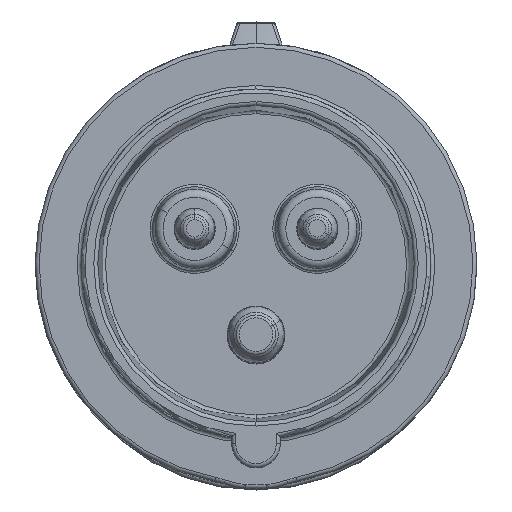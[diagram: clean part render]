
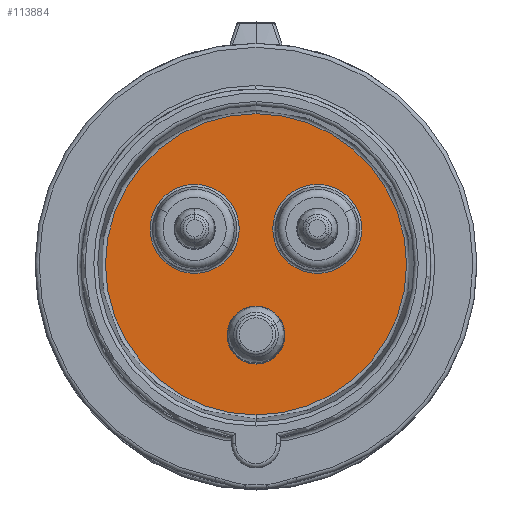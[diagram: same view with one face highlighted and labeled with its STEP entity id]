
A CAD part, top view. The second image highlights one B-rep face of the part: STEP entity #113884.
In plain terms, the highlighted planar face has unit normal (0, 0, 1).
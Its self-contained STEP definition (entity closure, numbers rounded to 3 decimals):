
#28959=CARTESIAN_POINT('',(0.,0.,-36.5));
#28960=DIRECTION('',(0.,0.,-1.));
#28961=DIRECTION('',(0.,1.,0.));
#28962=AXIS2_PLACEMENT_3D('',#28959,#28960,#28961);
#28964=CARTESIAN_POINT('',(0.,0.,-36.5));
#28965=DIRECTION('',(0.,0.,-1.));
#28966=DIRECTION('',(0.,-1.,0.));
#28967=AXIS2_PLACEMENT_3D('',#28964,#28965,#28966);
#28969=CARTESIAN_POINT('',(0.,-8.75,-36.5));
#28970=DIRECTION('',(0.,0.,1.));
#28971=DIRECTION('',(1.,0.,0.));
#28972=AXIS2_PLACEMENT_3D('',#28969,#28970,#28971);
#28974=CARTESIAN_POINT('',(0.,-8.75,-36.5));
#28975=DIRECTION('',(0.,0.,1.));
#28976=DIRECTION('',(-1.,0.,0.));
#28977=AXIS2_PLACEMENT_3D('',#28974,#28975,#28976);
#28979=CARTESIAN_POINT('',(7.578,4.375,-36.5));
#28980=DIRECTION('',(0.,0.,1.));
#28981=DIRECTION('',(-0.866,-0.5,0.));
#28982=AXIS2_PLACEMENT_3D('',#28979,#28980,#28981);
#28984=CARTESIAN_POINT('',(7.578,4.375,-36.5));
#28985=DIRECTION('',(0.,0.,1.));
#28986=DIRECTION('',(0.866,0.5,0.));
#28987=AXIS2_PLACEMENT_3D('',#28984,#28985,#28986);
#28989=CARTESIAN_POINT('',(-7.578,4.375,-36.5));
#28990=DIRECTION('',(0.,0.,1.));
#28991=DIRECTION('',(0.866,-0.5,0.));
#28992=AXIS2_PLACEMENT_3D('',#28989,#28990,#28991);
#28994=CARTESIAN_POINT('',(-7.578,4.375,-36.5));
#28995=DIRECTION('',(0.,0.,1.));
#28996=DIRECTION('',(-0.866,0.5,0.));
#28997=AXIS2_PLACEMENT_3D('',#28994,#28995,#28996);
#29552=CARTESIAN_POINT('',(2.811,1.623,-36.5));
#29553=CARTESIAN_POINT('',(12.344,7.127,-36.5));
#29554=VERTEX_POINT('',#29552);
#29555=VERTEX_POINT('',#29553);
#29568=CARTESIAN_POINT('',(-2.811,1.623,-36.5));
#29569=CARTESIAN_POINT('',(-12.344,7.127,-36.5));
#29570=VERTEX_POINT('',#29568);
#29571=VERTEX_POINT('',#29569);
#29616=CARTESIAN_POINT('',(0.,18.604,-36.5));
#29617=CARTESIAN_POINT('',(0.,-18.604,-36.5));
#29618=VERTEX_POINT('',#29616);
#29619=VERTEX_POINT('',#29617);
#29660=CARTESIAN_POINT('',(3.575,-8.75,-36.5));
#29661=CARTESIAN_POINT('',(-3.575,-8.75,-36.5));
#29662=VERTEX_POINT('',#29660);
#29663=VERTEX_POINT('',#29661);
#113856=CARTESIAN_POINT('',(0.,0.,-36.5));
#113857=DIRECTION('',(0.,0.,-1.));
#113858=DIRECTION('',(0.,-1.,0.));
#113859=AXIS2_PLACEMENT_3D('',#113856,#113857,#113858);
#113860=PLANE('41',#113859);
#113862=ORIENTED_EDGE('1754',*,*,#113861,.T.);
#113863=ORIENTED_EDGE('1756',*,*,#113834,.T.);
#113864=EDGE_LOOP('41',(#113862,#113863));
#113865=FACE_OUTER_BOUND('41',#113864,.F.);
#113867=ORIENTED_EDGE('1796',*,*,#113866,.T.);
#113869=ORIENTED_EDGE('1797',*,*,#113868,.T.);
#113870=EDGE_LOOP('41',(#113867,#113869));
#113871=FACE_BOUND('41',#113870,.F.);
#113873=ORIENTED_EDGE('1710',*,*,#113872,.T.);
#113875=ORIENTED_EDGE('1712',*,*,#113874,.T.);
#113876=EDGE_LOOP('41',(#113873,#113875));
#113877=FACE_BOUND('41',#113876,.F.);
#113879=ORIENTED_EDGE('1724',*,*,#113878,.T.);
#113881=ORIENTED_EDGE('1726',*,*,#113880,.T.);
#113882=EDGE_LOOP('41',(#113879,#113881));
#113883=FACE_BOUND('41',#113882,.F.);
#28963=CIRCLE('1754',#28962,18.604);
#28968=CIRCLE('1756',#28967,18.604);
#28973=CIRCLE('1796',#28972,3.575);
#28978=CIRCLE('1797',#28977,3.575);
#28983=CIRCLE('1710',#28982,5.504);
#28988=CIRCLE('1712',#28987,5.504);
#28993=CIRCLE('1724',#28992,5.504);
#28998=CIRCLE('1726',#28997,5.504);
#113834=EDGE_CURVE('1756',#29619,#29618,#28968,.T.);
#113861=EDGE_CURVE('1754',#29618,#29619,#28963,.T.);
#113866=EDGE_CURVE('1796',#29662,#29663,#28973,.T.);
#113868=EDGE_CURVE('1797',#29663,#29662,#28978,.T.);
#113872=EDGE_CURVE('1710',#29554,#29555,#28983,.T.);
#113874=EDGE_CURVE('1712',#29555,#29554,#28988,.T.);
#113878=EDGE_CURVE('1724',#29570,#29571,#28993,.T.);
#113880=EDGE_CURVE('1726',#29571,#29570,#28998,.T.);
#113884=ADVANCED_FACE('41',(#113865,#113871,#113877,#113883),#113860,.F.);
